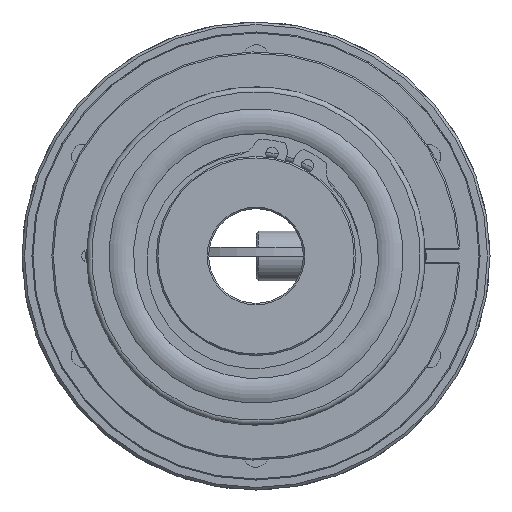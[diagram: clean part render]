
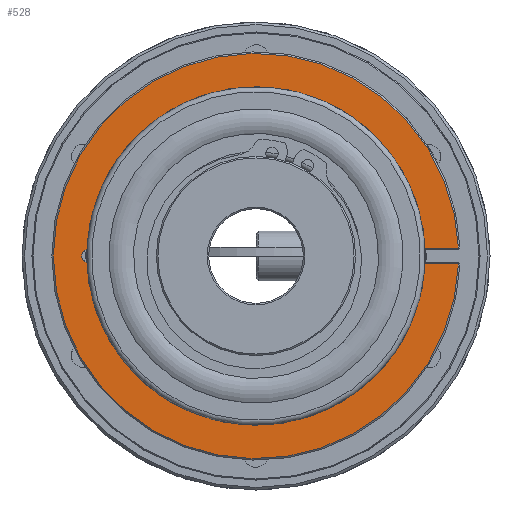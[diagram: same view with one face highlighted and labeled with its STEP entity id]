
A CAD part, left-side view. The second image highlights one B-rep face of the part: STEP entity #528.
In plain terms, the highlighted planar face has unit normal (-1, 0, 0).
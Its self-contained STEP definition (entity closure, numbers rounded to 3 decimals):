
#528 = ADVANCED_FACE( '', ( #941 ), #942, .F. );
#941 = FACE_OUTER_BOUND( '', #1392, .T. );
#942 = PLANE( '', #1393 );
#1392 = EDGE_LOOP( '', ( #2211, #2212, #2213, #2214, #2215, #2216, #2217, #2218 ) );
#1393 = AXIS2_PLACEMENT_3D( '', #2219, #2220, #2221 );
#2211 = ORIENTED_EDGE( '', *, *, #2660, .F. );
#2212 = ORIENTED_EDGE( '', *, *, #2697, .T. );
#2213 = ORIENTED_EDGE( '', *, *, #2700, .T. );
#2214 = ORIENTED_EDGE( '', *, *, #2695, .T. );
#2215 = ORIENTED_EDGE( '', *, *, #2688, .T. );
#2216 = ORIENTED_EDGE( '', *, *, #2656, .T. );
#2217 = ORIENTED_EDGE( '', *, *, #2709, .F. );
#2218 = ORIENTED_EDGE( '', *, *, #2707, .T. );
#2219 = CARTESIAN_POINT( '', ( -21., 41., 0. ) );
#2220 = DIRECTION( '', ( 1., 0., 0. ) );
#2221 = DIRECTION( '', ( 0., 1., 0. ) );
#2656 = EDGE_CURVE( '', #3007, #3005, #3008, .T. );
#2660 = EDGE_CURVE( '', #3013, #3014, #3015, .F. );
#2688 = EDGE_CURVE( '', #3059, #3007, #3060, .T. );
#2695 = EDGE_CURVE( '', #3069, #3059, #3070, .F. );
#2697 = EDGE_CURVE( '', #3013, #3072, #3073, .T. );
#2700 = EDGE_CURVE( '', #3072, #3069, #3076, .T. );
#2707 = EDGE_CURVE( '', #3089, #3014, #3090, .T. );
#2709 = EDGE_CURVE( '', #3089, #3005, #3092, .F. );
#3005 = VERTEX_POINT( '', #3789 );
#3007 = VERTEX_POINT( '', #3794 );
#3008 = CIRCLE( '', #3795, 21.3 );
#3013 = VERTEX_POINT( '', #3804 );
#3014 = VERTEX_POINT( '', #3805 );
#3015 = LINE( '', #3806, #3807 );
#3059 = VERTEX_POINT( '', #3893 );
#3060 = LINE( '', #3894, #3895 );
#3069 = VERTEX_POINT( '', #3913 );
#3070 = CIRCLE( '', #3914, 40.7 );
#3072 = VERTEX_POINT( '', #3919 );
#3073 = CIRCLE( '', #3920, 21.3 );
#3076 = LINE( '', #3927, #3928 );
#3089 = VERTEX_POINT( '', #4099 );
#3090 = CIRCLE( '', #4100, 1.3 );
#3092 = LINE( '', #4103, #4104 );
#3789 = CARTESIAN_POINT( '', ( -21., 21.26, -1.3 ) );
#3794 = CARTESIAN_POINT( '', ( -21., -21.24, -1.6 ) );
#3795 = AXIS2_PLACEMENT_3D( '', #4451, #4452, #4453 );
#3804 = CARTESIAN_POINT( '', ( -21., 21.26, 1.3 ) );
#3805 = CARTESIAN_POINT( '', ( -21., 33.7, 1.3 ) );
#3806 = CARTESIAN_POINT( '', ( -21., 35., 1.3 ) );
#3807 = VECTOR( '', #4458, 1000. );
#3893 = CARTESIAN_POINT( '', ( -21., -40.669, -1.6 ) );
#3894 = CARTESIAN_POINT( '', ( -21., 41., -1.6 ) );
#3895 = VECTOR( '', #4486, 1000. );
#3913 = CARTESIAN_POINT( '', ( -21., -40.669, 1.6 ) );
#3914 = AXIS2_PLACEMENT_3D( '', #4493, #4494, #4495 );
#3919 = CARTESIAN_POINT( '', ( -21., -21.24, 1.6 ) );
#3920 = AXIS2_PLACEMENT_3D( '', #4496, #4497, #4498 );
#3927 = CARTESIAN_POINT( '', ( -21., 41., 1.6 ) );
#3928 = VECTOR( '', #4500, 1000. );
#4099 = CARTESIAN_POINT( '', ( -21., 33.7, -1.3 ) );
#4100 = AXIS2_PLACEMENT_3D( '', #4513, #4514, #4515 );
#4103 = CARTESIAN_POINT( '', ( -21., 35., -1.3 ) );
#4104 = VECTOR( '', #4517, 1000. );
#4451 = CARTESIAN_POINT( '', ( -21., 0., 0. ) );
#4452 = DIRECTION( '', ( 1., 0., 0. ) );
#4453 = DIRECTION( '', ( 0., 0., -1. ) );
#4458 = DIRECTION( '', ( 0., -1., 0. ) );
#4486 = DIRECTION( '', ( 0., 1., 0. ) );
#4493 = CARTESIAN_POINT( '', ( -21., 0., 0. ) );
#4494 = DIRECTION( '', ( 1., 0., 0. ) );
#4495 = DIRECTION( '', ( 0., 0., -1. ) );
#4496 = CARTESIAN_POINT( '', ( -21., 0., 0. ) );
#4497 = DIRECTION( '', ( 1., 0., 0. ) );
#4498 = DIRECTION( '', ( 0., 0., -1. ) );
#4500 = DIRECTION( '', ( 0., -1., 0. ) );
#4513 = CARTESIAN_POINT( '', ( -21., 33.7, 0. ) );
#4514 = DIRECTION( '', ( 1., 0., 0. ) );
#4515 = DIRECTION( '', ( 0., 0., -1. ) );
#4517 = DIRECTION( '', ( 0., 1., 0. ) );
